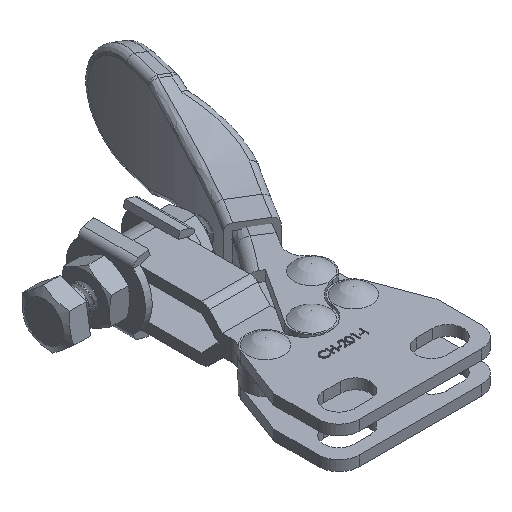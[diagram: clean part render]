
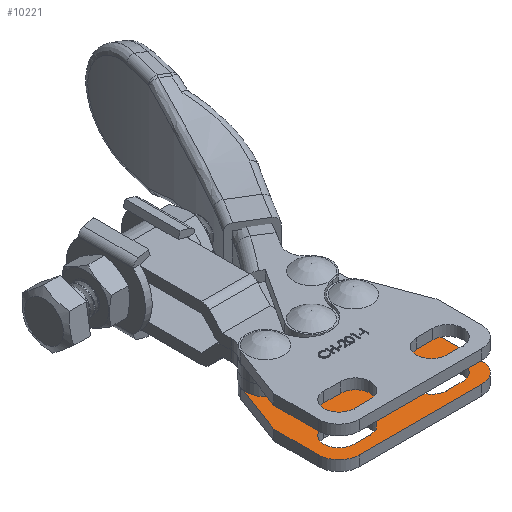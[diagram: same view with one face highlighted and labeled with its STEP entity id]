
A CAD part, isometric view. The second image highlights one B-rep face of the part: STEP entity #10221.
In plain terms, the highlighted planar face has unit normal (0, 0, 1).
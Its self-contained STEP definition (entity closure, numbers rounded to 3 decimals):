
#818=FACE_BOUND('',#1802,.T.);
#819=FACE_BOUND('',#1803,.T.);
#820=FACE_BOUND('',#1804,.T.);
#821=FACE_BOUND('',#1805,.T.);
#915=PLANE('',#10999);
#1201=FACE_OUTER_BOUND('',#1801,.T.);
#1801=EDGE_LOOP('',(#7593,#7594,#7595,#7596,#7597,#7598,#7599,#7600,#7601,
#7602));
#1802=EDGE_LOOP('',(#7603,#7604));
#1803=EDGE_LOOP('',(#7605,#7606,#7607,#7608));
#1804=EDGE_LOOP('',(#7609,#7610,#7611,#7612));
#1805=EDGE_LOOP('',(#7613,#7614));
#2565=LINE('',#17608,#3401);
#2566=LINE('',#17612,#3402);
#2567=LINE('',#17614,#3403);
#2568=LINE('',#17622,#3404);
#2569=LINE('',#17624,#3405);
#2570=LINE('',#17627,#3406);
#2571=LINE('',#17630,#3407);
#2572=LINE('',#17632,#3408);
#2573=LINE('',#17635,#3409);
#3401=VECTOR('',#12085,1000.);
#3402=VECTOR('',#12088,1000.);
#3403=VECTOR('',#12089,1000.);
#3404=VECTOR('',#12096,1000.);
#3405=VECTOR('',#12097,1000.);
#3406=VECTOR('',#12100,1000.);
#3407=VECTOR('',#12103,1000.);
#3408=VECTOR('',#12104,1000.);
#3409=VECTOR('',#12107,1000.);
#4008=CIRCLE('',#10967,2.2);
#4010=CIRCLE('',#10970,2.2);
#4021=CIRCLE('',#10984,1.5);
#4022=CIRCLE('',#10985,1.5);
#4025=CIRCLE('',#10989,1.5);
#4026=CIRCLE('',#10990,1.5);
#4034=CIRCLE('',#11000,3.);
#4035=CIRCLE('',#11001,2.8);
#4036=CIRCLE('',#11002,3.65);
#4037=CIRCLE('',#11003,2.8);
#4038=CIRCLE('',#11004,3.);
#4039=CIRCLE('',#11005,2.2);
#4040=CIRCLE('',#11006,2.2);
#4415=VERTEX_POINT('',#16112);
#4416=VERTEX_POINT('',#16114);
#4419=VERTEX_POINT('',#16121);
#4420=VERTEX_POINT('',#16123);
#4431=VERTEX_POINT('',#16151);
#4432=VERTEX_POINT('',#16153);
#4435=VERTEX_POINT('',#16161);
#4436=VERTEX_POINT('',#16163);
#4627=VERTEX_POINT('',#17606);
#4628=VERTEX_POINT('',#17607);
#4629=VERTEX_POINT('',#17609);
#4630=VERTEX_POINT('',#17611);
#4631=VERTEX_POINT('',#17613);
#4632=VERTEX_POINT('',#17615);
#4633=VERTEX_POINT('',#17617);
#4634=VERTEX_POINT('',#17619);
#4635=VERTEX_POINT('',#17621);
#4636=VERTEX_POINT('',#17623);
#4637=VERTEX_POINT('',#17626);
#4638=VERTEX_POINT('',#17628);
#4639=VERTEX_POINT('',#17631);
#4640=VERTEX_POINT('',#17633);
#5545=EDGE_CURVE('',#4416,#4415,#4008,.T.);
#5549=EDGE_CURVE('',#4420,#4419,#4010,.T.);
#5564=EDGE_CURVE('',#4431,#4432,#4021,.T.);
#5565=EDGE_CURVE('',#4432,#4431,#4022,.T.);
#5569=EDGE_CURVE('',#4435,#4436,#4025,.T.);
#5570=EDGE_CURVE('',#4436,#4435,#4026,.T.);
#5763=EDGE_CURVE('',#4627,#4628,#2565,.T.);
#5764=EDGE_CURVE('',#4627,#4629,#4034,.T.);
#5765=EDGE_CURVE('',#4629,#4630,#2566,.T.);
#5766=EDGE_CURVE('',#4630,#4631,#2567,.T.);
#5767=EDGE_CURVE('',#4631,#4632,#4035,.T.);
#5768=EDGE_CURVE('',#4632,#4633,#4036,.T.);
#5769=EDGE_CURVE('',#4633,#4634,#4037,.T.);
#5770=EDGE_CURVE('',#4634,#4635,#2568,.T.);
#5771=EDGE_CURVE('',#4635,#4636,#2569,.T.);
#5772=EDGE_CURVE('',#4636,#4628,#4038,.T.);
#5773=EDGE_CURVE('',#4415,#4637,#2570,.T.);
#5774=EDGE_CURVE('',#4637,#4638,#4039,.T.);
#5775=EDGE_CURVE('',#4638,#4416,#2571,.T.);
#5776=EDGE_CURVE('',#4419,#4639,#2572,.T.);
#5777=EDGE_CURVE('',#4639,#4640,#4040,.T.);
#5778=EDGE_CURVE('',#4640,#4420,#2573,.T.);
#7593=ORIENTED_EDGE('',*,*,#5763,.F.);
#7594=ORIENTED_EDGE('',*,*,#5764,.T.);
#7595=ORIENTED_EDGE('',*,*,#5765,.T.);
#7596=ORIENTED_EDGE('',*,*,#5766,.T.);
#7597=ORIENTED_EDGE('',*,*,#5767,.T.);
#7598=ORIENTED_EDGE('',*,*,#5768,.T.);
#7599=ORIENTED_EDGE('',*,*,#5769,.T.);
#7600=ORIENTED_EDGE('',*,*,#5770,.T.);
#7601=ORIENTED_EDGE('',*,*,#5771,.T.);
#7602=ORIENTED_EDGE('',*,*,#5772,.T.);
#7603=ORIENTED_EDGE('',*,*,#5565,.F.);
#7604=ORIENTED_EDGE('',*,*,#5564,.F.);
#7605=ORIENTED_EDGE('',*,*,#5773,.T.);
#7606=ORIENTED_EDGE('',*,*,#5774,.T.);
#7607=ORIENTED_EDGE('',*,*,#5775,.T.);
#7608=ORIENTED_EDGE('',*,*,#5545,.T.);
#7609=ORIENTED_EDGE('',*,*,#5776,.T.);
#7610=ORIENTED_EDGE('',*,*,#5777,.T.);
#7611=ORIENTED_EDGE('',*,*,#5778,.T.);
#7612=ORIENTED_EDGE('',*,*,#5549,.T.);
#7613=ORIENTED_EDGE('',*,*,#5570,.F.);
#7614=ORIENTED_EDGE('',*,*,#5569,.F.);
#10221=ADVANCED_FACE('',(#1201,#818,#819,#820,#821),#915,.F.);
#10967=AXIS2_PLACEMENT_3D('',#16115,#11940,#11941);
#10970=AXIS2_PLACEMENT_3D('',#16124,#11948,#11949);
#10984=AXIS2_PLACEMENT_3D('',#16154,#11980,#11981);
#10985=AXIS2_PLACEMENT_3D('',#16155,#11982,#11983);
#10989=AXIS2_PLACEMENT_3D('',#16164,#11991,#11992);
#10990=AXIS2_PLACEMENT_3D('',#16165,#11993,#11994);
#10999=AXIS2_PLACEMENT_3D('',#17605,#12083,#12084);
#11000=AXIS2_PLACEMENT_3D('',#17610,#12086,#12087);
#11001=AXIS2_PLACEMENT_3D('',#17616,#12090,#12091);
#11002=AXIS2_PLACEMENT_3D('',#17618,#12092,#12093);
#11003=AXIS2_PLACEMENT_3D('',#17620,#12094,#12095);
#11004=AXIS2_PLACEMENT_3D('',#17625,#12098,#12099);
#11005=AXIS2_PLACEMENT_3D('',#17629,#12101,#12102);
#11006=AXIS2_PLACEMENT_3D('',#17634,#12105,#12106);
#11940=DIRECTION('center_axis',(0.,0.,-1.));
#11941=DIRECTION('ref_axis',(-1.,0.,0.));
#11948=DIRECTION('center_axis',(0.,0.,-1.));
#11949=DIRECTION('ref_axis',(-1.,0.,0.));
#11980=DIRECTION('center_axis',(0.,0.,1.));
#11981=DIRECTION('ref_axis',(-1.,0.,0.));
#11982=DIRECTION('center_axis',(0.,0.,1.));
#11983=DIRECTION('ref_axis',(-1.,0.,0.));
#11991=DIRECTION('center_axis',(0.,0.,1.));
#11992=DIRECTION('ref_axis',(1.,0.,0.));
#11993=DIRECTION('center_axis',(0.,0.,1.));
#11994=DIRECTION('ref_axis',(1.,0.,0.));
#12083=DIRECTION('center_axis',(0.,0.,-1.));
#12084=DIRECTION('ref_axis',(1.,0.,0.));
#12085=DIRECTION('',(-1.,0.,0.));
#12086=DIRECTION('center_axis',(0.,0.,1.));
#12087=DIRECTION('ref_axis',(-1.,0.,0.));
#12088=DIRECTION('',(0.,1.,0.));
#12089=DIRECTION('',(-0.351,0.936,0.));
#12090=DIRECTION('center_axis',(0.,0.,1.));
#12091=DIRECTION('ref_axis',(1.,0.,0.));
#12092=DIRECTION('center_axis',(0.,0.,-1.));
#12093=DIRECTION('ref_axis',(1.,0.,0.));
#12094=DIRECTION('center_axis',(0.,0.,1.));
#12095=DIRECTION('ref_axis',(1.,0.,0.));
#12096=DIRECTION('',(-0.351,-0.936,0.));
#12097=DIRECTION('',(0.,-1.,0.));
#12098=DIRECTION('center_axis',(0.,0.,1.));
#12099=DIRECTION('ref_axis',(-1.,0.,0.));
#12100=DIRECTION('',(-1.,0.,0.));
#12101=DIRECTION('center_axis',(0.,0.,-1.));
#12102=DIRECTION('ref_axis',(-1.,0.,0.));
#12103=DIRECTION('',(1.,0.,0.));
#12104=DIRECTION('',(-1.,0.,0.));
#12105=DIRECTION('center_axis',(0.,0.,-1.));
#12106=DIRECTION('ref_axis',(-1.,0.,0.));
#12107=DIRECTION('',(1.,0.,0.));
#16112=CARTESIAN_POINT('',(-17.45,-6.25,-3.));
#16114=CARTESIAN_POINT('',(-17.45,-1.85,-3.));
#16115=CARTESIAN_POINT('Origin',(-17.45,-4.05,-3.));
#16121=CARTESIAN_POINT('',(-3.95,-6.25,-3.));
#16123=CARTESIAN_POINT('',(-3.95,-1.85,-3.));
#16124=CARTESIAN_POINT('Origin',(-3.95,-4.05,-3.));
#16151=CARTESIAN_POINT('',(-4.,8.2,-3.));
#16153=CARTESIAN_POINT('',(-7.,8.2,-3.));
#16154=CARTESIAN_POINT('Origin',(-5.5,8.2,-3.));
#16155=CARTESIAN_POINT('Origin',(-5.5,8.2,-3.));
#16161=CARTESIAN_POINT('',(-16.8,8.2,-3.));
#16163=CARTESIAN_POINT('',(-19.8,8.2,-3.));
#16164=CARTESIAN_POINT('Origin',(-18.3,8.2,-3.));
#16165=CARTESIAN_POINT('Origin',(-18.3,8.2,-3.));
#17605=CARTESIAN_POINT('Origin',(-5.5,8.2,-3.));
#17606=CARTESIAN_POINT('',(-3.,-8.,-3.));
#17607=CARTESIAN_POINT('',(-20.8,-8.,-3.));
#17608=CARTESIAN_POINT('',(0.,-8.,-3.));
#17609=CARTESIAN_POINT('',(0.,-5.,-3.));
#17610=CARTESIAN_POINT('Origin',(-3.,-5.,-3.));
#17611=CARTESIAN_POINT('',(0.,1.5,-3.));
#17612=CARTESIAN_POINT('',(0.,0.,-3.));
#17613=CARTESIAN_POINT('',(-2.878,9.182,-3.));
#17614=CARTESIAN_POINT('',(0.,1.5,-3.));
#17615=CARTESIAN_POINT('',(-8.26,8.673,-3.));
#17616=CARTESIAN_POINT('Origin',(-5.5,8.2,-3.));
#17617=CARTESIAN_POINT('',(-15.505,8.369,-3.));
#17618=CARTESIAN_POINT('Origin',(-11.9,8.94,-3.));
#17619=CARTESIAN_POINT('',(-20.922,9.182,-3.));
#17620=CARTESIAN_POINT('Origin',(-18.3,8.2,-3.));
#17621=CARTESIAN_POINT('',(-23.8,1.5,-3.));
#17622=CARTESIAN_POINT('',(-23.8,1.5,-3.));
#17623=CARTESIAN_POINT('',(-23.8,-5.,-3.));
#17624=CARTESIAN_POINT('',(-23.8,0.,-3.));
#17625=CARTESIAN_POINT('Origin',(-20.8,-5.,-3.));
#17626=CARTESIAN_POINT('',(-19.85,-6.25,-3.));
#17627=CARTESIAN_POINT('',(-5.5,-6.25,-3.));
#17628=CARTESIAN_POINT('',(-19.85,-1.85,-3.));
#17629=CARTESIAN_POINT('Origin',(-19.85,-4.05,-3.));
#17630=CARTESIAN_POINT('',(-5.5,-1.85,-3.));
#17631=CARTESIAN_POINT('',(-6.35,-6.25,-3.));
#17632=CARTESIAN_POINT('',(-5.5,-6.25,-3.));
#17633=CARTESIAN_POINT('',(-6.35,-1.85,-3.));
#17634=CARTESIAN_POINT('Origin',(-6.35,-4.05,-3.));
#17635=CARTESIAN_POINT('',(-5.5,-1.85,-3.));
